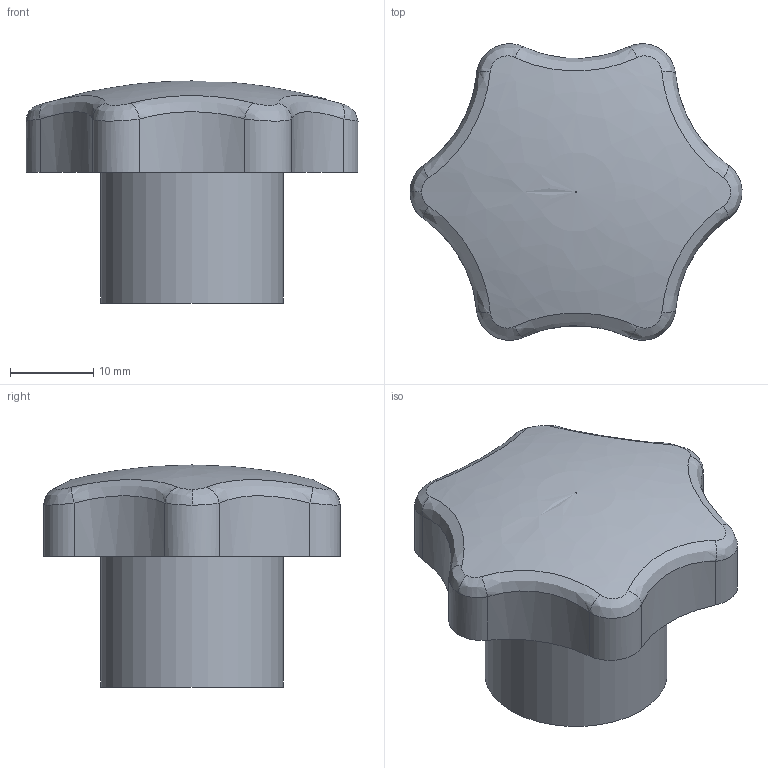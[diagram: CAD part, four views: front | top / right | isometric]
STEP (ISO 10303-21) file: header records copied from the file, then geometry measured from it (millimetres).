
FILE_DESCRIPTION( ('This file contains a STEP AP42 implementation' ,'as created by ZW3D STEP Interface translator.') ,'2;1' );
FILE_NAME( 'Rekojesc gwiazdowa z gwintem wewnetrznym 40.stp' ,'26 320. 72425', (''), ('ZWCAD Software Co.'), 'Version 1.0', 'ZW3D to STEP translator', '' );
FILE_SCHEMA(('AP242_MANAGED_MODEL_BASED_3D_ENGINEERING_MIM_LF { 1 0 10303 442 1 1 4 }'));
Length unit declared in the file: millimetre
Products named in the file (1): 0
Bounding box: 39.99 x 35.71 x 26.75 mm (x, y, z)
Volume: 15320.5 mm3; surface area: 5274.3 mm2
Topology: 2 solids, 2 shells, 39 faces, 88 edges, 53 vertices
Faces by surface type: cylinder 17, bspline 14, plane 4, cone 4
Full cylindrical faces by diameter (mm): 4.2 x2, 8 x2, 22 x1
Entity records: 2016 total; most frequent: CARTESIAN_POINT 1221, ORIENTED_EDGE 170, DIRECTION 123, EDGE_CURVE 85, VERTEX_POINT 53, AXIS2_PLACEMENT_3D 51, EDGE_LOOP 42, FACE_OUTER_BOUND 39
